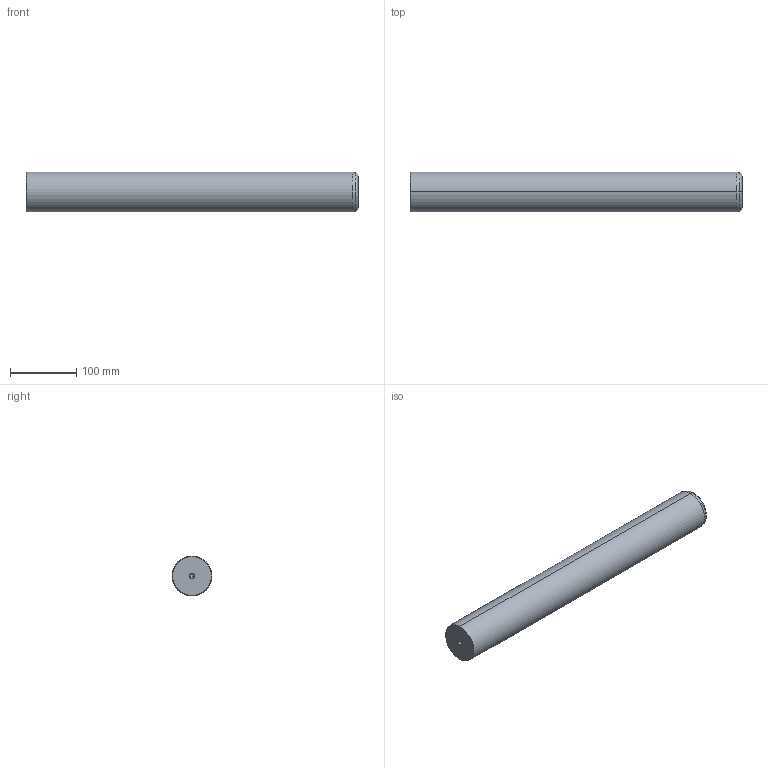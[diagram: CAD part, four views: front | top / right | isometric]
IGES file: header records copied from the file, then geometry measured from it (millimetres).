
Start section: START RECORD GO HERE.
Global section: file name: 720-60x500.igs; native system: DASSAULT SYSTEMES CATIA V5 R20 - www.3ds.com; preprocessor: CATIA Version 5 Release 20 ; author: Utente; organization: NB04-ASUS; date: 20201230.223052; units: millimetre
Bounding box: 500 x 60 x 60 mm (x, y, z)
Surface area: 100222.9 mm2 (no closed solid volume)
Topology: 0 solids, 0 shells, 22 faces, 120 edges, 116 vertices
Faces by surface type: revolution 20, plane 2
